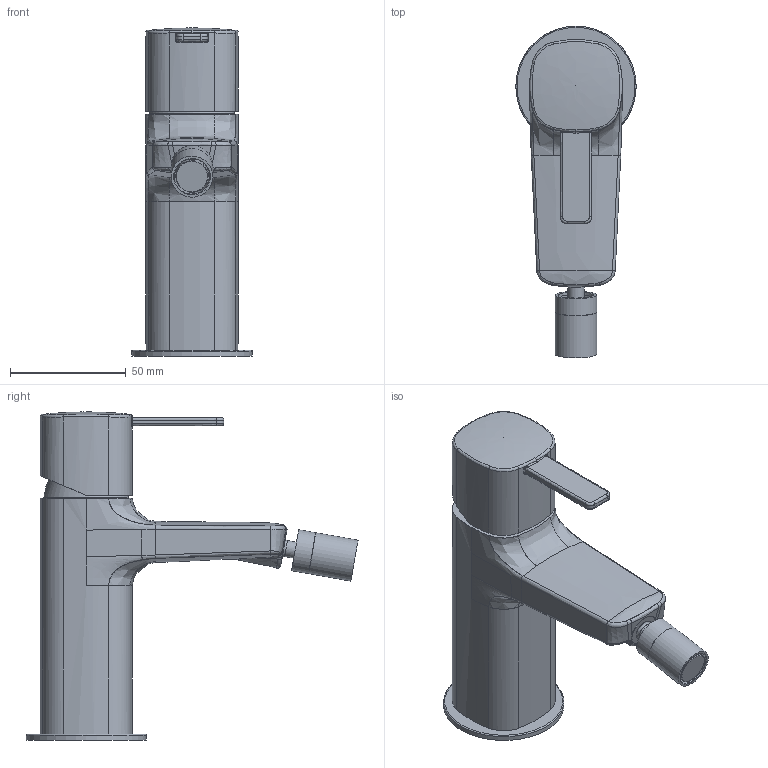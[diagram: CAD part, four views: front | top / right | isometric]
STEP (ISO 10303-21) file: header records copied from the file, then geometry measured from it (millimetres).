
FILE_DESCRIPTION(('STEP AP203'),'2;1');
FILE_NAME('DIS_3D_M108F.stp','2020-05-19T09:53:08',(''),(''),'2015.2.119','THINKDESIGN','');
FILE_SCHEMA(('CONFIG_CONTROL_DESIGN'));
Length unit declared in the file: millimetre
Bounding box: 52 x 143.51 x 141.82 mm (x, y, z)
Volume: 38335.7 mm3; surface area: 55850.4 mm2
Topology: 6 solids, 6 shells, 339 faces, 1219 edges, 1061 vertices
Faces by surface type: bspline 213, plane 63, cylinder 63
Full cylindrical faces by diameter (mm): 5 x1, 7 x1, 7.5 x1, 10.8 x1, 11 x3, 12.5 x1, 13.2 x1, 14 x2, 14.1 x1, 14.2 x1, 14.4 x1, 14.6 x1, 14.9 x1, 15 x1, 15.2 x1, 15.3 x1, 15.4 x1, 16 x2, 16.7 x1, 18 x2, 29.618 x1, 31.5 x1, 52 x1
Entity records: 34323 total; most frequent: CARTESIAN_POINT 27813, DIRECTION 958, COMPOSITE_CURVE_SEGMENT 824, ORIENTED_EDGE 768, B_SPLINE_CURVE_WITH_KNOTS 680, EDGE_CURVE 384, AXIS2_PLACEMENT_3D 380, CIRCLE 249
